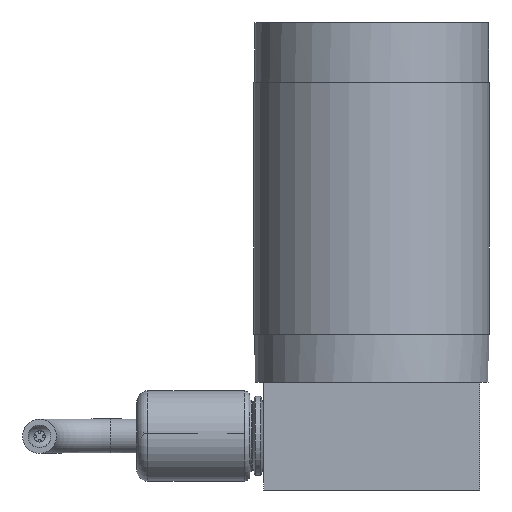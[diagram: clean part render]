
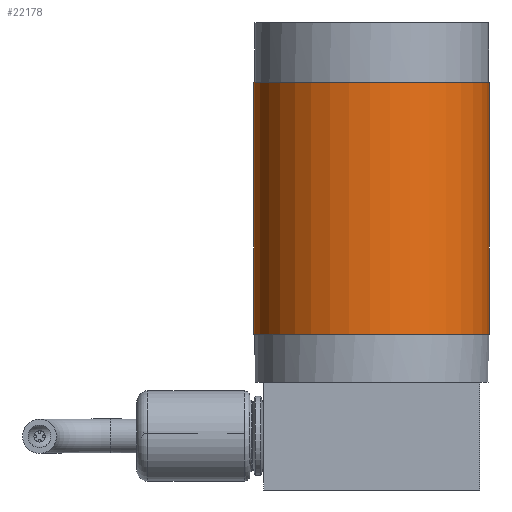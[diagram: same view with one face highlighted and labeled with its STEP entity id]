
A CAD part, left-side view. The second image highlights one B-rep face of the part: STEP entity #22178.
In plain terms, the highlighted cylindrical face has radius 20.765 mm (diameter 41.529 mm), a full revolution.
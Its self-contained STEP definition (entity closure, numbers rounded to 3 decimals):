
#5110=FACE_BOUND('',#7426,.T.);
#5272=CYLINDRICAL_SURFACE('',#23457,20.765);
#6028=FACE_OUTER_BOUND('',#7425,.T.);
#7425=EDGE_LOOP('',(#16883));
#7426=EDGE_LOOP('',(#16884));
#8227=CIRCLE('',#23458,20.765);
#8228=CIRCLE('',#23459,20.765);
#9587=VERTEX_POINT('',#34849);
#9588=VERTEX_POINT('',#34851);
#12182=EDGE_CURVE('',#9587,#9587,#8227,.T.);
#12183=EDGE_CURVE('',#9588,#9588,#8228,.T.);
#16883=ORIENTED_EDGE('',*,*,#12182,.T.);
#16884=ORIENTED_EDGE('',*,*,#12183,.F.);
#22178=ADVANCED_FACE('',(#6028,#5110),#5272,.T.);
#23457=AXIS2_PLACEMENT_3D('',#34848,#26554,#26555);
#23458=AXIS2_PLACEMENT_3D('',#34850,#26556,#26557);
#23459=AXIS2_PLACEMENT_3D('',#34852,#26558,#26559);
#26554=DIRECTION('center_axis',(0.,0.,1.));
#26555=DIRECTION('ref_axis',(-1.,0.016,0.));
#26556=DIRECTION('center_axis',(0.,0.,-1.));
#26557=DIRECTION('ref_axis',(-1.,0.016,0.));
#26558=DIRECTION('center_axis',(0.,0.,-1.));
#26559=DIRECTION('ref_axis',(-1.,0.016,0.));
#34848=CARTESIAN_POINT('Origin',(0.,0.,27.456));
#34849=CARTESIAN_POINT('',(20.762,-0.329,71.906));
#34850=CARTESIAN_POINT('Origin',(0.,0.,71.906));
#34851=CARTESIAN_POINT('',(20.762,-0.329,27.456));
#34852=CARTESIAN_POINT('Origin',(0.,0.,27.456));
